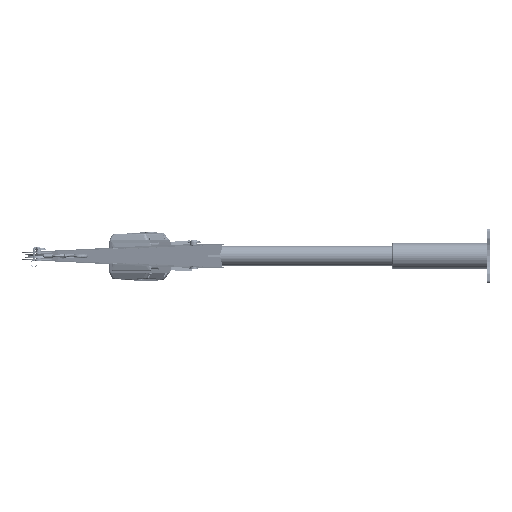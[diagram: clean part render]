
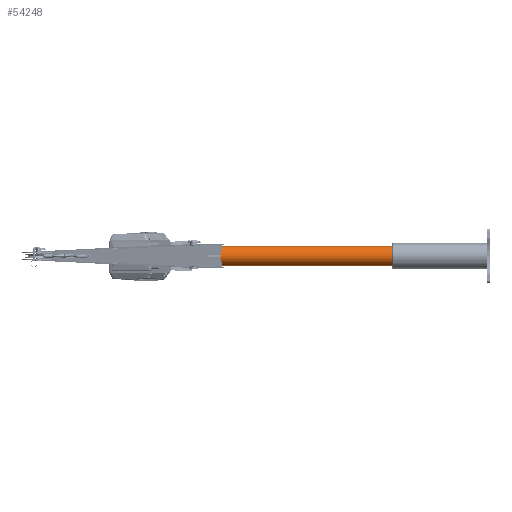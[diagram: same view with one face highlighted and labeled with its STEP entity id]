
A CAD part, left-side view. The second image highlights one B-rep face of the part: STEP entity #54248.
In plain terms, the highlighted cylindrical face has radius 38.1 mm (diameter 76.2 mm), a partial arc.
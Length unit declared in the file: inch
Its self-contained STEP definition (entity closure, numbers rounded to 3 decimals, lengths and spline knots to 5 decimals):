
#14078 = CARTESIAN_POINT ( 'NONE',  ( 0., 47.5, 0. ) ) ;
#23742 = CARTESIAN_POINT ( 'NONE',  ( 0., 0., 0. ) ) ;
#28182 = DIRECTION ( 'NONE',  ( 0., -1., 0. ) ) ;
#36822 = ORIENTED_EDGE ( 'NONE', *, *, #208817, .T. ) ;
#47084 = DIRECTION ( 'NONE',  ( 0., 0., 1. ) ) ;
#54248 = ADVANCED_FACE ( 'NONE', ( #234959 ), #233371, .T. ) ;
#58393 = VECTOR ( 'NONE', #28182, 39.37008 ) ;
#86435 = VERTEX_POINT ( 'NONE', #223744 ) ;
#93036 = DIRECTION ( 'NONE',  ( 0., 0., -1. ) ) ;
#101445 = CARTESIAN_POINT ( 'NONE',  ( 0., 0., 1.5 ) ) ;
#105435 = CARTESIAN_POINT ( 'NONE',  ( 0., 0., -1.5 ) ) ;
#131301 = LINE ( 'NONE', #231261, #58393 ) ;
#139111 = ORIENTED_EDGE ( 'NONE', *, *, #234985, .T. ) ;
#141124 = AXIS2_PLACEMENT_3D ( 'NONE', #23742, #144722, #317256 ) ;
#141289 = LINE ( 'NONE', #289621, #161304 ) ;
#142888 = EDGE_CURVE ( 'NONE', #86435, #233480, #131301, .T. ) ;
#144722 = DIRECTION ( 'NONE',  ( 0., 1., 0. ) ) ;
#151751 = CARTESIAN_POINT ( 'NONE',  ( 0., 47.5, 0. ) ) ;
#152654 = ORIENTED_EDGE ( 'NONE', *, *, #286615, .F. ) ;
#161304 = VECTOR ( 'NONE', #239649, 39.37008 ) ;
#162526 = EDGE_LOOP ( 'NONE', ( #179196, #152654, #36822, #139111 ) ) ;
#179196 = ORIENTED_EDGE ( 'NONE', *, *, #142888, .F. ) ;
#208778 = CARTESIAN_POINT ( 'NONE',  ( 0., 47.5, -1.5 ) ) ;
#208817 = EDGE_CURVE ( 'NONE', #238481, #258412, #141289, .T. ) ;
#217100 = DIRECTION ( 'NONE',  ( 0., -1., 0. ) ) ;
#223744 = CARTESIAN_POINT ( 'NONE',  ( 0., 47.5, 1.5 ) ) ;
#231261 = CARTESIAN_POINT ( 'NONE',  ( 0., 47.5, 1.5 ) ) ;
#233371 = CYLINDRICAL_SURFACE ( 'NONE', #256878, 1.5 ) ;
#233480 = VERTEX_POINT ( 'NONE', #101445 ) ;
#234959 = FACE_OUTER_BOUND ( 'NONE', #162526, .T. ) ;
#234985 = EDGE_CURVE ( 'NONE', #258412, #233480, #269805, .T. ) ;
#238481 = VERTEX_POINT ( 'NONE', #208778 ) ;
#239649 = DIRECTION ( 'NONE',  ( 0., -1., 0. ) ) ;
#241274 = CIRCLE ( 'NONE', #277176, 1.5 ) ;
#256878 = AXIS2_PLACEMENT_3D ( 'NONE', #14078, #217100, #93036 ) ;
#258412 = VERTEX_POINT ( 'NONE', #105435 ) ;
#267987 = DIRECTION ( 'NONE',  ( 0., 1., 0. ) ) ;
#269805 = CIRCLE ( 'NONE', #141124, 1.5 ) ;
#277176 = AXIS2_PLACEMENT_3D ( 'NONE', #151751, #267987, #47084 ) ;
#286615 = EDGE_CURVE ( 'NONE', #238481, #86435, #241274, .T. ) ;
#289621 = CARTESIAN_POINT ( 'NONE',  ( 0., 47.5, -1.5 ) ) ;
#317256 = DIRECTION ( 'NONE',  ( 0., 0., 1. ) ) ;
